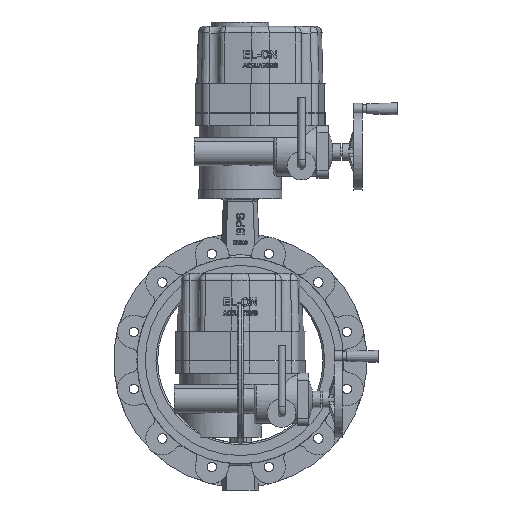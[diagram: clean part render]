
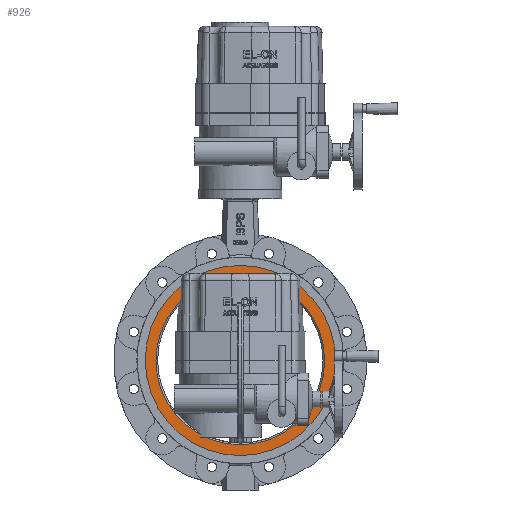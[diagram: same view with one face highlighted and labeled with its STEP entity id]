
A CAD part, front view. The second image highlights one B-rep face of the part: STEP entity #926.
In plain terms, the highlighted planar face has unit normal (0, -1, 0).
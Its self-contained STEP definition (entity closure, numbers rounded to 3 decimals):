
#926 = ADVANCED_FACE( '', ( #2384, #2385 ), #2386, .F. );
#2384 = FACE_BOUND( '', #5503, .T. );
#2385 = FACE_OUTER_BOUND( '', #5504, .T. );
#2386 = PLANE( '', #5505 );
#5503 = EDGE_LOOP( '', ( #11813 ) );
#5504 = EDGE_LOOP( '', ( #11814 ) );
#5505 = AXIS2_PLACEMENT_3D( '', #11815, #11816, #11817 );
#11813 = ORIENTED_EDGE( '', *, *, #17333, .T. );
#11814 = ORIENTED_EDGE( '', *, *, #16872, .F. );
#11815 = CARTESIAN_POINT( '', ( 0., -41., 0. ) );
#11816 = DIRECTION( '', ( 0., 1., 0. ) );
#11817 = DIRECTION( '', ( 0., 0., 1. ) );
#16872 = EDGE_CURVE( '', #19225, #19225, #19226, .T. );
#17333 = EDGE_CURVE( '', #20014, #20014, #20015, .T. );
#19225 = VERTEX_POINT( '', #22950 );
#19226 = CIRCLE( '', #22951, 172.5 );
#20014 = VERTEX_POINT( '', #26356 );
#20015 = CIRCLE( '', #26357, 153. );
#22950 = CARTESIAN_POINT( '', ( 172.5, -41., 0. ) );
#22951 = AXIS2_PLACEMENT_3D( '', #33341, #33342, #33343 );
#26356 = CARTESIAN_POINT( '', ( 0., -41., 153. ) );
#26357 = AXIS2_PLACEMENT_3D( '', #33812, #33813, #33814 );
#33341 = CARTESIAN_POINT( '', ( 0., -41., 0. ) );
#33342 = DIRECTION( '', ( 0., 1., 0. ) );
#33343 = DIRECTION( '', ( 1., 0., 0. ) );
#33812 = CARTESIAN_POINT( '', ( 0., -41., 0. ) );
#33813 = DIRECTION( '', ( 0., 1., 0. ) );
#33814 = DIRECTION( '', ( 0., 0., 1. ) );
